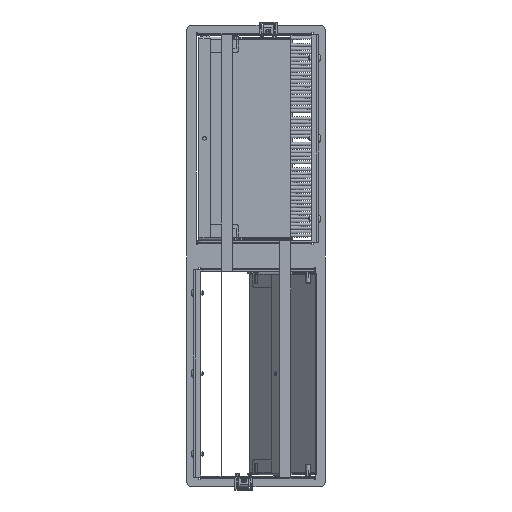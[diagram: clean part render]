
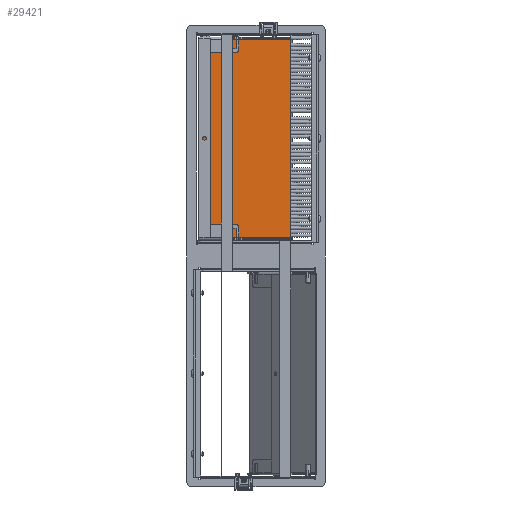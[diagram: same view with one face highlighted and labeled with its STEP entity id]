
A CAD part, left-side view. The second image highlights one B-rep face of the part: STEP entity #29421.
In plain terms, the highlighted planar face has unit normal (-1, 0, 0).
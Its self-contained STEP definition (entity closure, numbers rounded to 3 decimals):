
#2859=PLANE('',#32270);
#4335=FACE_OUTER_BOUND('',#6152,.T.);
#6152=EDGE_LOOP('',(#25109,#25110,#25111,#25112));
#8894=LINE('',#51152,#11298);
#8898=LINE('',#51165,#11302);
#8903=LINE('',#51182,#11307);
#8904=LINE('',#51184,#11308);
#11298=VECTOR('',#39539,10.);
#11302=VECTOR('',#39551,10.);
#11307=VECTOR('',#39568,10.);
#11308=VECTOR('',#39571,10.);
#14191=VERTEX_POINT('',#51149);
#14192=VERTEX_POINT('',#51151);
#14197=VERTEX_POINT('',#51164);
#14200=VERTEX_POINT('',#51180);
#17981=EDGE_CURVE('',#14192,#14191,#8894,.T.);
#17988=EDGE_CURVE('',#14197,#14192,#8898,.T.);
#17997=EDGE_CURVE('',#14191,#14200,#8903,.T.);
#17998=EDGE_CURVE('',#14200,#14197,#8904,.T.);
#25109=ORIENTED_EDGE('',*,*,#17997,.T.);
#25110=ORIENTED_EDGE('',*,*,#17998,.T.);
#25111=ORIENTED_EDGE('',*,*,#17988,.T.);
#25112=ORIENTED_EDGE('',*,*,#17981,.T.);
#29421=ADVANCED_FACE('',(#4335),#2859,.F.);
#32270=AXIS2_PLACEMENT_3D('',#51183,#39569,#39570);
#39539=DIRECTION('',(0.,0.,-1.));
#39551=DIRECTION('',(0.,1.,0.));
#39568=DIRECTION('',(0.,-1.,0.));
#39569=DIRECTION('center_axis',(1.,0.,0.));
#39570=DIRECTION('ref_axis',(0.,0.,
-1.));
#39571=DIRECTION('',(0.,0.,1.));
#51149=CARTESIAN_POINT('',(-303.581,188.836,-416.472));
#51151=CARTESIAN_POINT('',(-303.581,188.836,-199.972));
#51152=CARTESIAN_POINT('',(-303.581,188.836,-197.472));
#51164=CARTESIAN_POINT('',(-303.581,86.336,-199.972));
#51165=CARTESIAN_POINT('',(-303.581,160.711,-199.972));
#51180=CARTESIAN_POINT('',(-303.581,86.336,-416.472));
#51182=CARTESIAN_POINT('',(-303.581,114.461,-416.472));
#51183=CARTESIAN_POINT('Origin',(-303.581,142.586,-308.222));
#51184=CARTESIAN_POINT('',(-303.581,86.336,-418.972));
